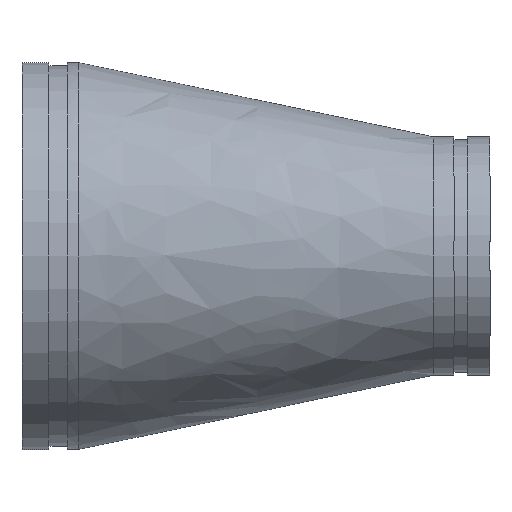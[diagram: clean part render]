
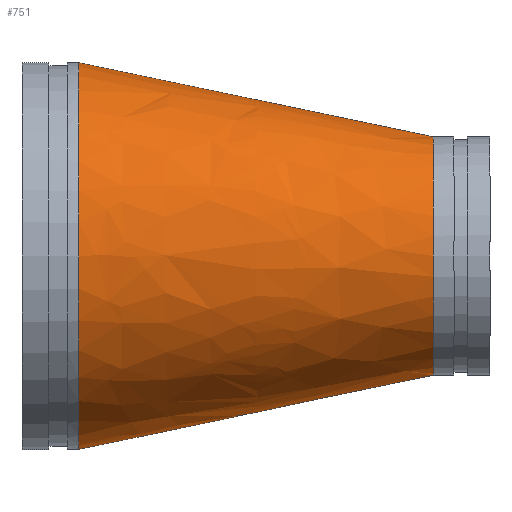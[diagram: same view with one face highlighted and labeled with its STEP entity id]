
A CAD part, front view. The second image highlights one B-rep face of the part: STEP entity #751.
In plain terms, the highlighted free-form (B-spline) face has degree [1, 2] with [2, 9] control points.
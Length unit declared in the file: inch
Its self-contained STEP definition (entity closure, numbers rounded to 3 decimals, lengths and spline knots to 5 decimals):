
#58=B_SPLINE_CURVE_WITH_KNOTS('',1,(#1409,#1410),.UNSPECIFIED.,.F.,.F.,
(2,2),(-1.91289,-0.00814),.UNSPECIFIED.);
#60=(
BOUNDED_SURFACE()
B_SPLINE_SURFACE(1,2,((#1387,#1388,#1389,#1390,#1391,#1392,#1393,#1394,
#1395),(#1396,#1397,#1398,#1399,#1400,#1401,#1402,#1403,#1404)),
 .UNSPECIFIED.,.F.,.T.,.F.)
B_SPLINE_SURFACE_WITH_KNOTS((2,2),(3,2,2,2,3),(-0.20355,2.03182),
(-3.14159,-1.5708,0.,1.5708,3.14159),
 .UNSPECIFIED.)
GEOMETRIC_REPRESENTATION_ITEM()
RATIONAL_B_SPLINE_SURFACE(((1.,0.707,1.,0.707,1.,
0.707,1.,0.707,1.),(1.,0.707,1.,0.707,
1.,0.707,1.,0.707,1.)))
REPRESENTATION_ITEM('')
SURFACE()
);
#128=FACE_OUTER_BOUND('',#160,.T.);
#160=EDGE_LOOP('',(#622,#623,#624,#625,#626,#627,#628));
#247=CIRCLE('',#870,3.3125);
#248=CIRCLE('',#871,5.375);
#249=CIRCLE('',#872,5.375);
#250=CIRCLE('',#873,3.3125);
#251=CIRCLE('',#874,3.3125);
#332=VERTEX_POINT('',#1405);
#333=VERTEX_POINT('',#1406);
#334=VERTEX_POINT('',#1408);
#335=VERTEX_POINT('',#1411);
#336=VERTEX_POINT('',#1414);
#436=EDGE_CURVE('',#332,#333,#247,.T.);
#437=EDGE_CURVE('',#333,#334,#58,.T.);
#438=EDGE_CURVE('',#334,#335,#248,.T.);
#439=EDGE_CURVE('',#335,#334,#249,.T.);
#440=EDGE_CURVE('',#333,#336,#250,.T.);
#441=EDGE_CURVE('',#336,#332,#251,.T.);
#622=ORIENTED_EDGE('',*,*,#436,.T.);
#623=ORIENTED_EDGE('',*,*,#437,.T.);
#624=ORIENTED_EDGE('',*,*,#438,.T.);
#625=ORIENTED_EDGE('',*,*,#439,.T.);
#626=ORIENTED_EDGE('',*,*,#437,.F.);
#627=ORIENTED_EDGE('',*,*,#440,.T.);
#628=ORIENTED_EDGE('',*,*,#441,.T.);
#751=ADVANCED_FACE('',(#128),#60,.F.);
#870=AXIS2_PLACEMENT_3D('',#1407,#1104,#1105);
#871=AXIS2_PLACEMENT_3D('',#1412,#1106,#1107);
#872=AXIS2_PLACEMENT_3D('',#1413,#1108,#1109);
#873=AXIS2_PLACEMENT_3D('',#1415,#1110,#1111);
#874=AXIS2_PLACEMENT_3D('',#1416,#1112,#1113);
#1104=DIRECTION('center_axis',(-1.,0.,0.));
#1105=DIRECTION('ref_axis',(0.,-1.,0.));
#1106=DIRECTION('center_axis',(1.,0.,0.));
#1107=DIRECTION('ref_axis',(0.,1.,0.));
#1108=DIRECTION('center_axis',(1.,0.,0.));
#1109=DIRECTION('ref_axis',(0.,1.,0.));
#1110=DIRECTION('center_axis',(-1.,0.,0.));
#1111=DIRECTION('ref_axis',(0.,-1.,0.));
#1112=DIRECTION('center_axis',(-1.,0.,0.));
#1113=DIRECTION('ref_axis',(0.,-1.,0.));
#1387=CARTESIAN_POINT('Ctrl Pts',(0.48643,0.00252,
5.59963));
#1388=CARTESIAN_POINT('Ctrl Pts',(-0.59513,-5.375,
5.59963));
#1389=CARTESIAN_POINT('Ctrl Pts',(-0.59513,-5.375,
0.));
#1390=CARTESIAN_POINT('Ctrl Pts',(-0.59513,-5.375,
-5.59963));
#1391=CARTESIAN_POINT('Ctrl Pts',(0.48643,0.00252,
-5.59963));
#1392=CARTESIAN_POINT('Ctrl Pts',(1.56798,5.38004,-5.59963));
#1393=CARTESIAN_POINT('Ctrl Pts',(1.56798,5.38004,0.));
#1394=CARTESIAN_POINT('Ctrl Pts',(1.56798,5.38004,5.59963));
#1395=CARTESIAN_POINT('Ctrl Pts',(0.48643,0.00252,
5.59963));
#1396=CARTESIAN_POINT('Ctrl Pts',(12.03442,-2.32007,3.18111));
#1397=CARTESIAN_POINT('Ctrl Pts',(11.42,-5.375,3.18111));
#1398=CARTESIAN_POINT('Ctrl Pts',(11.42,-5.375,0.));
#1399=CARTESIAN_POINT('Ctrl Pts',(11.42,-5.375,-3.18111));
#1400=CARTESIAN_POINT('Ctrl Pts',(12.03442,-2.32007,-3.18111));
#1401=CARTESIAN_POINT('Ctrl Pts',(12.64885,0.73486,-3.18111));
#1402=CARTESIAN_POINT('Ctrl Pts',(12.64885,0.73486,0.));
#1403=CARTESIAN_POINT('Ctrl Pts',(12.64885,0.73486,3.18111));
#1404=CARTESIAN_POINT('Ctrl Pts',(12.03442,-2.32007,3.18111));
#1405=CARTESIAN_POINT('',(11.42,-5.375,0.));
#1406=CARTESIAN_POINT('',(11.42,-2.19649,3.30979));
#1407=CARTESIAN_POINT('Origin',(11.42,-2.0625,0.));
#1408=CARTESIAN_POINT('',(1.58,-0.21743,5.3706));
#1409=CARTESIAN_POINT('Ctrl Pts',(11.42,-2.19649,3.30979));
#1410=CARTESIAN_POINT('Ctrl Pts',(1.58,-0.21743,5.3706));
#1411=CARTESIAN_POINT('',(1.58,-5.375,0.));
#1412=CARTESIAN_POINT('Origin',(1.58,0.,0.));
#1413=CARTESIAN_POINT('Origin',(1.58,0.,0.));
#1414=CARTESIAN_POINT('',(11.42,1.25,0.));
#1415=CARTESIAN_POINT('Origin',(11.42,-2.0625,0.));
#1416=CARTESIAN_POINT('Origin',(11.42,-2.0625,0.));
